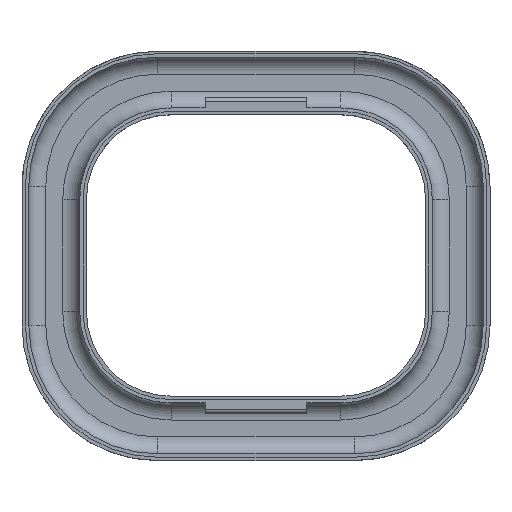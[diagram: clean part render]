
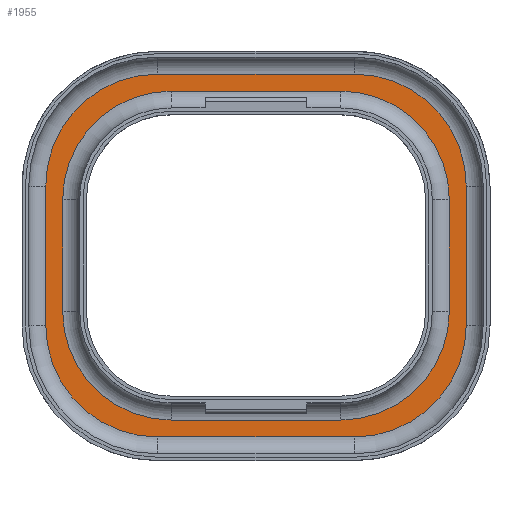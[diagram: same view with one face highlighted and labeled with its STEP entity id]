
A CAD part, top view. The second image highlights one B-rep face of the part: STEP entity #1955.
In plain terms, the highlighted planar face has unit normal (0, 0, 1).
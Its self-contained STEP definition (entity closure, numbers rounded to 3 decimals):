
#1810=CARTESIAN_POINT('',(0.,-6.5,2.));
#1811=DIRECTION('',(0.,0.,1.));
#1812=DIRECTION('',(1.,0.,0.));
#1813=AXIS2_PLACEMENT_3D('',#1810,#1811,#1812);
#1814=PLANE('',#1813);
#1815=CARTESIAN_POINT('',(25.,48.5,2.));
#1816=VERTEX_POINT('',#1815);
#1817=CARTESIAN_POINT('',(57.,16.5,2.));
#1818=VERTEX_POINT('',#1817);
#1819=CARTESIAN_POINT('',(25.,16.5,2.));
#1820=DIRECTION('',(-0.,-0.,-1.));
#1821=DIRECTION('',(1.,0.,-0.));
#1822=AXIS2_PLACEMENT_3D('',#1819,#1820,#1821);
#1823=CIRCLE('',#1822,32.);
#1824=EDGE_CURVE('',#1816,#1818,#1823,.T.);
#1825=ORIENTED_EDGE('',*,*,#1824,.T.);
#1826=CARTESIAN_POINT('',(57.,-16.5,2.));
#1827=VERTEX_POINT('',#1826);
#1828=CARTESIAN_POINT('',(57.,16.5,2.));
#1829=DIRECTION('',(0.,-1.,0.));
#1830=VECTOR('',#1829,33.);
#1831=LINE('',#1828,#1830);
#1832=EDGE_CURVE('',#1818,#1827,#1831,.T.);
#1833=ORIENTED_EDGE('',*,*,#1832,.T.);
#1834=CARTESIAN_POINT('',(25.,-48.5,2.));
#1835=VERTEX_POINT('',#1834);
#1836=CARTESIAN_POINT('',(25.,-16.5,2.));
#1837=DIRECTION('',(-0.,-0.,-1.));
#1838=DIRECTION('',(1.,0.,-0.));
#1839=AXIS2_PLACEMENT_3D('',#1836,#1837,#1838);
#1840=CIRCLE('',#1839,32.);
#1841=EDGE_CURVE('',#1827,#1835,#1840,.T.);
#1842=ORIENTED_EDGE('',*,*,#1841,.T.);
#1843=CARTESIAN_POINT('',(-25.,-48.5,2.));
#1844=VERTEX_POINT('',#1843);
#1845=CARTESIAN_POINT('',(25.,-48.5,2.));
#1846=DIRECTION('',(-1.,0.,0.));
#1847=VECTOR('',#1846,50.);
#1848=LINE('',#1845,#1847);
#1849=EDGE_CURVE('',#1835,#1844,#1848,.T.);
#1850=ORIENTED_EDGE('',*,*,#1849,.T.);
#1851=CARTESIAN_POINT('',(-57.,-16.5,2.));
#1852=VERTEX_POINT('',#1851);
#1853=CARTESIAN_POINT('',(-25.,-16.5,2.));
#1854=DIRECTION('',(-0.,-0.,-1.));
#1855=DIRECTION('',(1.,0.,-0.));
#1856=AXIS2_PLACEMENT_3D('',#1853,#1854,#1855);
#1857=CIRCLE('',#1856,32.);
#1858=EDGE_CURVE('',#1844,#1852,#1857,.T.);
#1859=ORIENTED_EDGE('',*,*,#1858,.T.);
#1860=CARTESIAN_POINT('',(-57.,16.5,2.));
#1861=VERTEX_POINT('',#1860);
#1862=CARTESIAN_POINT('',(-57.,-16.5,2.));
#1863=DIRECTION('',(0.,1.,0.));
#1864=VECTOR('',#1863,33.);
#1865=LINE('',#1862,#1864);
#1866=EDGE_CURVE('',#1852,#1861,#1865,.T.);
#1867=ORIENTED_EDGE('',*,*,#1866,.T.);
#1868=CARTESIAN_POINT('',(-25.,48.5,2.));
#1869=VERTEX_POINT('',#1868);
#1870=CARTESIAN_POINT('',(-25.,16.5,2.));
#1871=DIRECTION('',(-0.,-0.,-1.));
#1872=DIRECTION('',(1.,0.,-0.));
#1873=AXIS2_PLACEMENT_3D('',#1870,#1871,#1872);
#1874=CIRCLE('',#1873,32.);
#1875=EDGE_CURVE('',#1861,#1869,#1874,.T.);
#1876=ORIENTED_EDGE('',*,*,#1875,.T.);
#1877=CARTESIAN_POINT('',(-25.,48.5,2.));
#1878=DIRECTION('',(1.,0.,-0.));
#1879=VECTOR('',#1878,50.);
#1880=LINE('',#1877,#1879);
#1881=EDGE_CURVE('',#1869,#1816,#1880,.T.);
#1882=ORIENTED_EDGE('',*,*,#1881,.T.);
#1883=EDGE_LOOP('',(#1825,#1833,#1842,#1850,#1859,#1867,#1876,#1882));
#1884=FACE_BOUND('',#1883,.T.);
#1885=CARTESIAN_POINT('',(29.,53.5,2.));
#1886=VERTEX_POINT('',#1885);
#1887=CARTESIAN_POINT('',(-29.,53.5,2.));
#1888=VERTEX_POINT('',#1887);
#1889=CARTESIAN_POINT('',(29.,53.5,2.));
#1890=DIRECTION('',(-1.,0.,0.));
#1891=VECTOR('',#1890,58.);
#1892=LINE('',#1889,#1891);
#1893=EDGE_CURVE('',#1886,#1888,#1892,.T.);
#1894=ORIENTED_EDGE('',*,*,#1893,.T.);
#1895=CARTESIAN_POINT('',(-62.,20.5,2.));
#1896=VERTEX_POINT('',#1895);
#1897=CARTESIAN_POINT('',(-29.,20.5,2.));
#1898=DIRECTION('',(0.,0.,1.));
#1899=DIRECTION('',(1.,0.,-0.));
#1900=AXIS2_PLACEMENT_3D('',#1897,#1898,#1899);
#1901=CIRCLE('',#1900,33.);
#1902=EDGE_CURVE('',#1888,#1896,#1901,.T.);
#1903=ORIENTED_EDGE('',*,*,#1902,.T.);
#1904=CARTESIAN_POINT('',(-62.,-20.5,2.));
#1905=VERTEX_POINT('',#1904);
#1906=CARTESIAN_POINT('',(-62.,20.5,2.));
#1907=DIRECTION('',(0.,-1.,0.));
#1908=VECTOR('',#1907,41.);
#1909=LINE('',#1906,#1908);
#1910=EDGE_CURVE('',#1896,#1905,#1909,.T.);
#1911=ORIENTED_EDGE('',*,*,#1910,.T.);
#1912=CARTESIAN_POINT('',(-29.,-53.5,2.));
#1913=VERTEX_POINT('',#1912);
#1914=CARTESIAN_POINT('',(-29.,-20.5,2.));
#1915=DIRECTION('',(0.,0.,1.));
#1916=DIRECTION('',(1.,0.,-0.));
#1917=AXIS2_PLACEMENT_3D('',#1914,#1915,#1916);
#1918=CIRCLE('',#1917,33.);
#1919=EDGE_CURVE('',#1905,#1913,#1918,.T.);
#1920=ORIENTED_EDGE('',*,*,#1919,.T.);
#1921=CARTESIAN_POINT('',(29.,-53.5,2.));
#1922=VERTEX_POINT('',#1921);
#1923=CARTESIAN_POINT('',(-29.,-53.5,2.));
#1924=DIRECTION('',(1.,0.,-0.));
#1925=VECTOR('',#1924,58.);
#1926=LINE('',#1923,#1925);
#1927=EDGE_CURVE('',#1913,#1922,#1926,.T.);
#1928=ORIENTED_EDGE('',*,*,#1927,.T.);
#1929=CARTESIAN_POINT('',(62.,-20.5,2.));
#1930=VERTEX_POINT('',#1929);
#1931=CARTESIAN_POINT('',(29.,-20.5,2.));
#1932=DIRECTION('',(0.,0.,1.));
#1933=DIRECTION('',(1.,0.,-0.));
#1934=AXIS2_PLACEMENT_3D('',#1931,#1932,#1933);
#1935=CIRCLE('',#1934,33.);
#1936=EDGE_CURVE('',#1922,#1930,#1935,.T.);
#1937=ORIENTED_EDGE('',*,*,#1936,.T.);
#1938=CARTESIAN_POINT('',(62.,20.5,2.));
#1939=VERTEX_POINT('',#1938);
#1940=CARTESIAN_POINT('',(62.,-20.5,2.));
#1941=DIRECTION('',(-0.,1.,-0.));
#1942=VECTOR('',#1941,41.);
#1943=LINE('',#1940,#1942);
#1944=EDGE_CURVE('',#1930,#1939,#1943,.T.);
#1945=ORIENTED_EDGE('',*,*,#1944,.T.);
#1946=CARTESIAN_POINT('',(29.,20.5,2.));
#1947=DIRECTION('',(0.,0.,1.));
#1948=DIRECTION('',(1.,0.,-0.));
#1949=AXIS2_PLACEMENT_3D('',#1946,#1947,#1948);
#1950=CIRCLE('',#1949,33.);
#1951=EDGE_CURVE('',#1939,#1886,#1950,.T.);
#1952=ORIENTED_EDGE('',*,*,#1951,.T.);
#1953=EDGE_LOOP('',(#1894,#1903,#1911,#1920,#1928,#1937,#1945,#1952));
#1954=FACE_BOUND('',#1953,.T.);
#1955=ADVANCED_FACE('',(#1884,#1954),#1814,.T.);
